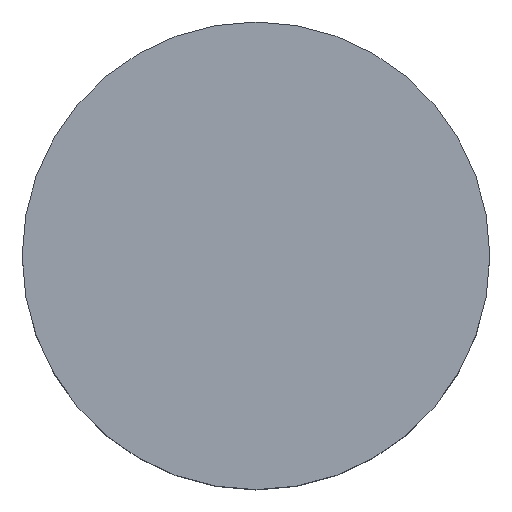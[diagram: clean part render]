
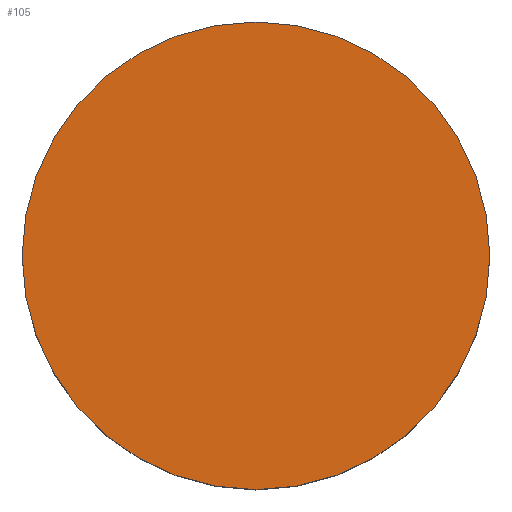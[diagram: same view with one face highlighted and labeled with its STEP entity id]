
A CAD part, top view. The second image highlights one B-rep face of the part: STEP entity #105.
In plain terms, the highlighted planar face has unit normal (0, 0, 1).
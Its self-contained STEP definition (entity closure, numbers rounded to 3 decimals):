
#21 = EDGE_CURVE('',#22,#22,#24,.T.);
#22 = VERTEX_POINT('',#23);
#23 = CARTESIAN_POINT('',(337.,-315.,-160.));
#24 = SURFACE_CURVE('',#25,(#30,#42),.PCURVE_S1.);
#25 = CIRCLE('',#26,22.);
#26 = AXIS2_PLACEMENT_3D('',#27,#28,#29);
#27 = CARTESIAN_POINT('',(315.,-315.,-160.));
#28 = DIRECTION('',(0.,0.,1.));
#29 = DIRECTION('',(1.,0.,-0.));
#30 = PCURVE('',#31,#36);
#31 = CYLINDRICAL_SURFACE('',#32,22.);
#32 = AXIS2_PLACEMENT_3D('',#33,#34,#35);
#33 = CARTESIAN_POINT('',(315.,-315.,-178.));
#34 = DIRECTION('',(0.,0.,1.));
#35 = DIRECTION('',(1.,0.,-0.));
#36 = DEFINITIONAL_REPRESENTATION('',(#37),#41);
#37 = LINE('',#38,#39);
#38 = CARTESIAN_POINT('',(0.,18.));
#39 = VECTOR('',#40,1.);
#40 = DIRECTION('',(1.,0.));
#41 = ( GEOMETRIC_REPRESENTATION_CONTEXT(2) 
PARAMETRIC_REPRESENTATION_CONTEXT() REPRESENTATION_CONTEXT('2D SPACE',''
  ) );
#42 = PCURVE('',#43,#48);
#43 = PLANE('',#44);
#44 = AXIS2_PLACEMENT_3D('',#45,#46,#47);
#45 = CARTESIAN_POINT('',(315.,-315.,-160.));
#46 = DIRECTION('',(0.,0.,1.));
#47 = DIRECTION('',(1.,0.,-0.));
#48 = DEFINITIONAL_REPRESENTATION('',(#49),#53);
#49 = CIRCLE('',#50,22.);
#50 = AXIS2_PLACEMENT_2D('',#51,#52);
#51 = CARTESIAN_POINT('',(0.,0.));
#52 = DIRECTION('',(1.,0.));
#53 = ( GEOMETRIC_REPRESENTATION_CONTEXT(2) 
PARAMETRIC_REPRESENTATION_CONTEXT() REPRESENTATION_CONTEXT('2D SPACE',''
  ) );
#105 = ADVANCED_FACE('',(#106),#43,.T.);
#106 = FACE_BOUND('',#107,.T.);
#107 = EDGE_LOOP('',(#108));
#108 = ORIENTED_EDGE('',*,*,#21,.T.);
